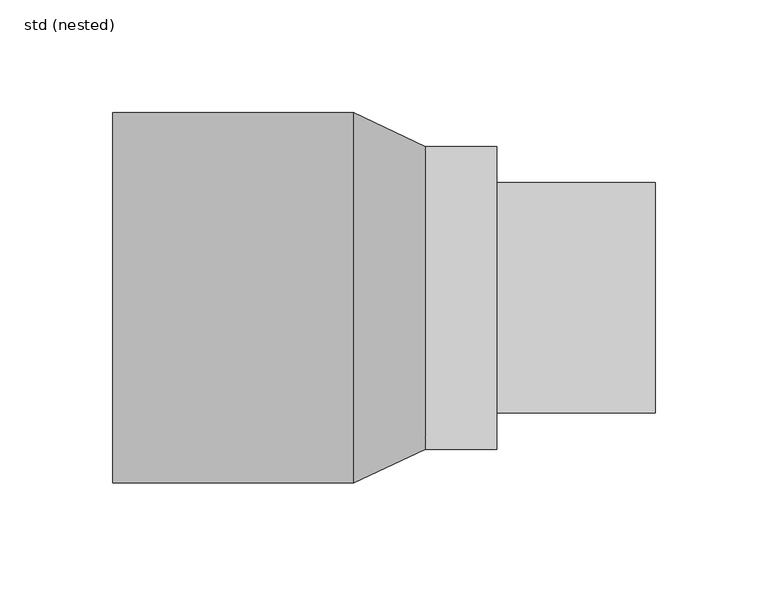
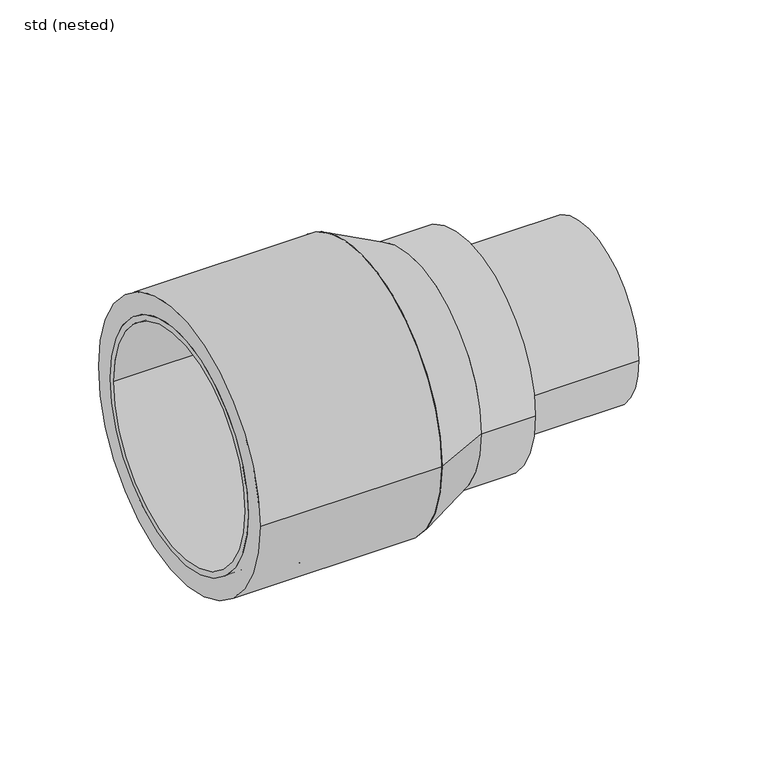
"""IFC4 building model written with IfcOpenShell, lengths in millimetres: pipe fitting geometry, ZZZ_do not use_PIF_ST_WPB_GM-X compound pipe optimiser_ACO : std (nested)."""

import ifcopenshell
import ifcopenshell.guid

model = None  # the IFC model being written
_history = None  # IfcOwnerHistory: only IFC2X3 demands one
_inside = {}  # id of a spatial element -> (the spatial element, [elements in it])
_under = {}  # id of a project, library or spatial element -> (it, [spatial elements below it])
_declared = {}  # id of a project -> (the project, [libraries it declares])
_typed = {}  # id of a type object -> (the type object, [elements of that type])
_made_of = {}  # id of a material, layer set ... -> (it, [elements and type objects made of it])


def new_model(schema):
    """Start an empty IFC model of exactly this schema.

    Asked for "IFC4X3", IfcOpenShell would pick the latest addendum, in which some entities
    have other attributes; the version numbers below select the first issue.
    IFC2X3 requires an IfcOwnerHistory on every rooted entity: one is made here for all.
    """
    global model, _history
    if schema == "IFC4X3":
        model = ifcopenshell.file(schema_version=(4, 3, 0, 0))
    else:
        model = ifcopenshell.file(schema=schema)
    _inside.clear()
    _under.clear()
    _declared.clear()
    _typed.clear()
    _made_of.clear()
    _history = None
    if model.schema == "IFC2X3":
        org = make("IfcOrganization", Name="unknown")
        user = make(
            "IfcPersonAndOrganization",
            ThePerson=make("IfcPerson", FamilyName="unknown"),
            TheOrganization=org,
        )
        app = make(
            "IfcApplication",
            ApplicationDeveloper=org,
            Version="unknown",
            ApplicationFullName="unknown",
            ApplicationIdentifier="unknown",
        )
        _history = make(
            "IfcOwnerHistory",
            OwningUser=user,
            OwningApplication=app,
            ChangeAction="ADDED",
            CreationDate=0,
        )
    return model


def make(cls, **values):
    """One entity of the class cls with the attributes given. An attribute that is None is left unset."""
    return model.create_entity(
        cls, **{name: value for name, value in values.items() if value is not None}
    )


def rooted(cls, **values):
    """An entity with a GlobalId (a new one), such as an element, a storey or a relation."""
    return make(cls, GlobalId=ifcopenshell.guid.new(), OwnerHistory=_history, **values)


def si_unit(unit_type, name, prefix=None):
    """IfcSIUnit, for example si_unit("LENGTHUNIT", "METRE", prefix="MILLI")."""
    return make("IfcSIUnit", UnitType=unit_type, Prefix=prefix, Name=name)


def assignment(units):
    """IfcUnitAssignment: the units of a project."""
    return None if units is None else make("IfcUnitAssignment", Units=units)


def point(xyz):
    """IfcCartesianPoint."""
    return None if xyz is None else make("IfcCartesianPoint", Coordinates=xyz)


def direction(xyz):
    """IfcDirection."""
    return None if xyz is None else make("IfcDirection", DirectionRatios=xyz)


def frame(location, z_axis=None, x_axis=None):
    """IfcAxis2Placement3D, a coordinate frame: its origin and axes. An axis left out is left unset."""
    return make(
        "IfcAxis2Placement3D",
        Location=point(location),
        Axis=direction(z_axis),
        RefDirection=direction(x_axis),
    )


def frame_2d(location, x_axis=None):
    """IfcAxis2Placement2D, a coordinate frame in the plane: its origin and x axis."""
    return make(
        "IfcAxis2Placement2D", Location=point(location), RefDirection=direction(x_axis)
    )


def origin():
    """The frame at (0, 0, 0) with its axes left unset."""
    return frame((0.0, 0.0, 0.0))


def origin_2d():
    """The frame at (0, 0) in the plane with its x axis left unset."""
    return frame_2d((0.0, 0.0))


def place(relative_to, where):
    """IfcLocalPlacement: puts the frame where relative to a parent placement (None: the world)."""
    return make(
        "IfcLocalPlacement", PlacementRelTo=relative_to, RelativePlacement=where
    )


def context(
    kind, dimensions, precision=None, world=None, true_north=None, identifier=None
):
    """IfcGeometricRepresentationContext, for example the 3D "Model" context."""
    return make(
        "IfcGeometricRepresentationContext",
        ContextIdentifier=identifier,
        ContextType=kind,
        CoordinateSpaceDimension=dimensions,
        Precision=precision,
        WorldCoordinateSystem=world,
        TrueNorth=true_north,
    )


def project(units=None, contexts=None):
    """IfcProject with its units and contexts."""
    return rooted(
        "IfcProject",
        Name="project",
        RepresentationContexts=contexts,
        UnitsInContext=assignment(units),
    )


def spatial(cls, under=None, at=None, **own):
    """A site, building, storey or space (cls), placed at a placement, below another one or the project."""
    s = rooted(cls, ObjectPlacement=at, **own)
    if under is not None:
        _under.setdefault(under.id(), (under, []))[1].append(s)
    return s


def polyline(points):
    """IfcPolyline through the points."""
    return make("IfcPolyline", Points=[point(p) for p in points])


def circle_curve(where, radius):
    """IfcCircle in the frame where."""
    return make("IfcCircle", Position=where, Radius=radius)


def trimmed(basis, trim1, trim2, sense, master):
    """IfcTrimmedCurve: the piece of a basis curve between two trims."""
    return make(
        "IfcTrimmedCurve",
        BasisCurve=basis,
        Trim1=trim1,
        Trim2=trim2,
        SenseAgreement=sense,
        MasterRepresentation=master,
    )


def segment(curve, same_sense, transition):
    """IfcCompositeCurveSegment."""
    return make(
        "IfcCompositeCurveSegment",
        Transition=transition,
        SameSense=same_sense,
        ParentCurve=curve,
    )


def composite_curve(segments, self_intersect=None):
    """IfcCompositeCurve: segments joined end to end."""
    return make("IfcCompositeCurve", Segments=segments, SelfIntersect=self_intersect)


def outline(outer, holes=None, kind="AREA"):
    """IfcArbitraryClosedProfileDef: a profile drawn as a closed curve; with holes, ...WithVoids."""
    if holes is None:
        return make("IfcArbitraryClosedProfileDef", ProfileType=kind, OuterCurve=outer)
    return make(
        "IfcArbitraryProfileDefWithVoids",
        ProfileType=kind,
        OuterCurve=outer,
        InnerCurves=holes,
    )


def extrude(swept, where, along, depth):
    """IfcExtrudedAreaSolid: the profile swept, set in the frame where, extruded along a direction by depth."""
    return make(
        "IfcExtrudedAreaSolid",
        SweptArea=swept,
        Position=where,
        ExtrudedDirection=direction(along),
        Depth=depth,
    )


def shape(context_of_items, identifier, shape_type, items):
    """IfcShapeRepresentation: the items that make up one representation, for example the "Body"."""
    return make(
        "IfcShapeRepresentation",
        ContextOfItems=context_of_items,
        RepresentationIdentifier=identifier,
        RepresentationType=shape_type,
        Items=items,
    )


def source(mapping_origin, context_of_items, identifier, shape_type, items):
    """IfcRepresentationMap: a shape defined once, which mapped items show again and again."""
    return make(
        "IfcRepresentationMap",
        MappingOrigin=mapping_origin,
        MappedRepresentation=shape(context_of_items, identifier, shape_type, items),
    )


def transform(
    local_origin,
    x_axis=None,
    y_axis=None,
    z_axis=None,
    scale=None,
    scale2=None,
    scale3=None,
    uniform=True,
):
    """IfcCartesianTransformationOperator3D, or its non-uniform kind. x_axis, y_axis, z_axis: its Axis1, 2, 3."""
    if uniform:
        return make(
            "IfcCartesianTransformationOperator3D",
            Axis1=direction(x_axis),
            Axis2=direction(y_axis),
            LocalOrigin=point(local_origin),
            Scale=scale,
            Axis3=direction(z_axis),
        )
    return make(
        "IfcCartesianTransformationOperator3DnonUniform",
        Axis1=direction(x_axis),
        Axis2=direction(y_axis),
        LocalOrigin=point(local_origin),
        Scale=scale,
        Axis3=direction(z_axis),
        Scale2=scale2,
        Scale3=scale3,
    )


def mapped(mapping_source, mapping_target):
    """IfcMappedItem: shows the shape of a source again, moved by a transform."""
    return make(
        "IfcMappedItem", MappingSource=mapping_source, MappingTarget=mapping_target
    )


def made_of(thing, what):
    """Note that an element or type object is made of a material, layer set ...; save() writes the relation."""
    if what is not None:
        _made_of.setdefault(what.id(), (what, []))[1].append(thing)
    return thing


def element(
    cls,
    number,
    at=None,
    inside=None,
    cuts=None,
    type_object=None,
    material=None,
    context=None,
    identifier="Body",
    shape_type=None,
    held_by="IfcProductDefinitionShape",
    body=None,
    shapes=None,
    **own,
):
    """One element of the class cls, such as IfcWall. Its Tag is "e" and its number.

    at: its placement. inside: the storey or other place that contains it. cuts: it is an
    opening in that element (IfcRelVoidsElement). A single representation is given by context,
    identifier, shape_type and body (its items); several are given by shapes. held_by: the class
    of the entity that holds the representations. save() writes the other relations.
    """
    e = rooted(cls, Tag="e%d" % number, ObjectPlacement=at, **own)
    if body is not None:
        shapes = [shape(context, identifier, shape_type, body)]
    if shapes is not None:
        e.Representation = make(held_by, Representations=shapes)
    if inside is not None:
        _inside.setdefault(inside.id(), (inside, []))[1].append(e)
    if cuts is not None:
        rooted(
            "IfcRelVoidsElement", RelatingBuildingElement=cuts, RelatedOpeningElement=e
        )
    if type_object is not None:
        _typed.setdefault(type_object.id(), (type_object, []))[1].append(e)
    return made_of(e, material)


def aggregate(whole, parts):
    """IfcRelAggregates: a whole, such as a stair, and the parts it consists of."""
    return rooted("IfcRelAggregates", RelatingObject=whole, RelatedObjects=parts)


def save(model, path):
    """Write the relations noted so far, then the file.

    IfcRelAggregates (storeys below a building ...), IfcRelContainedInSpatialStructure (elements
    in a storey), IfcRelDefinesByType, IfcRelAssociatesMaterial and IfcRelDeclares: one each for
    every whole, place, type object, material and project.
    """
    for whole, parts in _under.values():
        aggregate(whole, parts)
    for where, things in _inside.values():
        rooted(
            "IfcRelContainedInSpatialStructure",
            RelatedElements=things,
            RelatingStructure=where,
        )
    for kind, things in _typed.values():
        rooted("IfcRelDefinesByType", RelatedObjects=things, RelatingType=kind)
    for what, things in _made_of.values():
        rooted("IfcRelAssociatesMaterial", RelatedObjects=things, RelatingMaterial=what)
    for by, libraries in _declared.values():
        rooted("IfcRelDeclares", RelatingContext=by, RelatedDefinitions=libraries)
    model.write(path)


def plane_surface(at):
    """IfcPlane: the flat surface through the origin of the frame at, square to its z axis."""
    return make("IfcPlane", Position=at)


def cylinder_surface(at, radius):
    """IfcCylindricalSurface: all points at the distance radius from the z axis of the frame at."""
    return make("IfcCylindricalSurface", Position=at, Radius=radius)


def revolved_surface(curve, axis_point, axis_direction):
    """IfcSurfaceOfRevolution: the curve turned about the line through axis_point along axis_direction."""
    return make(
        "IfcSurfaceOfRevolution",
        SweptCurve=make("IfcArbitraryOpenProfileDef", ProfileType="CURVE", Curve=curve),
        AxisPosition=make("IfcAxis1Placement", Location=point(axis_point), Axis=direction(axis_direction)),
    )


def advanced_brep(points, edges, surfaces, faces):
    """IfcAdvancedBrep: a solid bounded by faces that lie on surfaces and meet in shared edges.

    An edge is (start, end): straight between two places in points (the first is 0);
    or (start, end, curve); or (start, end, curve, False) where it runs against its curve.
    A face is (place in surfaces, loops), or (place, loops, False) where it looks against
    its surface's normal. A loop lists edges by number (the first is 1), with a minus sign
    where the edge is run from its end to its start. The first loop is the outer one.
    """
    corners = [point(p) for p in points]
    vertices = [make("IfcVertexPoint", VertexGeometry=c) for c in corners]
    made = []
    for start, end, *more in edges:
        made.append(
            make(
                "IfcEdgeCurve",
                EdgeStart=vertices[start],
                EdgeEnd=vertices[end],
                EdgeGeometry=more[0] if more else make("IfcPolyline", Points=[corners[start], corners[end]]),
                SameSense=more[1] if len(more) > 1 else True,
            )
        )
    hull = []
    for where, loops, *sense in faces:
        bounds = []
        for j, loop in enumerate(loops):
            ring = [make("IfcOrientedEdge", EdgeElement=made[abs(k) - 1], Orientation=k > 0) for k in loop]
            bounds.append(
                make(
                    "IfcFaceOuterBound" if j == 0 else "IfcFaceBound",
                    Bound=make("IfcEdgeLoop", EdgeList=ring),
                    Orientation=True,
                )
            )
        hull.append(make("IfcAdvancedFace", Bounds=bounds, FaceSurface=surfaces[where], SameSense=sense[0] if sense else True))
    return make("IfcAdvancedBrep", Outer=make("IfcClosedShell", CfsFaces=hull))


def std_nested_eee07551(model_context):
    return source(origin(), model_context, "Body", "SolidModel", [
        advanced_brep(
        [(-66.6, 76.0, 0.0), (-35.0, 76.0, 0.0), (-35.0, -76.0, 0.0), (-66.6, -76.0, 0.0), (-75.0, -70.0, 0.0), (-75.0, 70.0, 0.0), (-75.0, 66.5, 0.0), (-75.0, -66.5, 0.0), (0.0, -70.0, 0.0), (0.0, 70.0, 0.0), (0.0, -66.5, 0.0), (0.0, 66.5, 0.0), (-35.0, -70.0, 0.0), (-35.0, 70.0, 0.0), (-66.6, 70.0, 0.0), (-66.6, -70.0, 0.0)],
        [
            (0, 1),
            (1, 2, circle_curve(frame((-35.0, 0.0, 0.0), z_axis=(-1.0, 0.0, 0.0), x_axis=(0.0, 1.0, 0.0)), 76.0)),
            (2, 3),
            (3, 0, circle_curve(frame((-66.6, 0.0, 0.0), z_axis=(1.0, 0.0, 0.0), x_axis=(0.0, 1.0, 0.0)), 76.0)),
            (2, 1, circle_curve(frame((-35.0, 0.0, 0.0), z_axis=(-1.0, 0.0, 0.0), x_axis=(0.0, 1.0, 0.0)), 76.0)),
            (0, 3, circle_curve(frame((-66.6, 0.0, 0.0), z_axis=(1.0, 0.0, 0.0), x_axis=(0.0, 1.0, 0.0)), 76.0)),
            (4, 5, circle_curve(frame((-75.0, 0.0, 0.0), z_axis=(-1.0, 0.0, 0.0), x_axis=(0.0, 1.0, 0.0)), 70.0)),
            (5, 4, circle_curve(frame((-75.0, 0.0, 0.0), z_axis=(-1.0, 0.0, 0.0), x_axis=(0.0, 1.0, 0.0)), 70.0)),
            (6, 7, circle_curve(frame((-75.0, 0.0, 0.0), z_axis=(1.0, 0.0, 0.0), x_axis=(0.0, 1.0, 0.0)), 66.5)),
            (7, 6, circle_curve(frame((-75.0, 0.0, 0.0), z_axis=(1.0, 0.0, 0.0), x_axis=(0.0, 1.0, 0.0)), 66.5)),
            (8, 9, circle_curve(frame((0.0, 0.0, 0.0), z_axis=(1.0, 0.0, 0.0), x_axis=(0.0, 1.0, 0.0)), 70.0)),
            (9, 8, circle_curve(frame((0.0, 0.0, 0.0), z_axis=(1.0, 0.0, 0.0), x_axis=(0.0, 1.0, 0.0)), 70.0)),
            (10, 11, circle_curve(frame((0.0, 0.0, 0.0), z_axis=(-1.0, 0.0, 0.0), x_axis=(0.0, 1.0, 0.0)), 66.5)),
            (11, 10, circle_curve(frame((0.0, 0.0, 0.0), z_axis=(-1.0, 0.0, 0.0), x_axis=(0.0, 1.0, 0.0)), 66.5)),
            (8, 12),
            (12, 13, circle_curve(frame((-35.0, 0.0, 0.0), z_axis=(1.0, 0.0, 0.0), x_axis=(0.0, 1.0, 0.0)), 70.0)),
            (13, 9),
            (5, 14),
            (14, 15, circle_curve(frame((-66.6, 0.0, 0.0), z_axis=(-1.0, 0.0, 0.0), x_axis=(0.0, 1.0, 0.0)), 70.0)),
            (15, 4),
            (15, 14, circle_curve(frame((-66.6, 0.0, 0.0), z_axis=(-1.0, 0.0, 0.0), x_axis=(0.0, 1.0, 0.0)), 70.0)),
            (13, 12, circle_curve(frame((-35.0, 0.0, 0.0), z_axis=(1.0, 0.0, 0.0), x_axis=(0.0, 1.0, 0.0)), 70.0)),
            (7, 10),
            (11, 6),
        ],
        [
            cylinder_surface(frame((-35.0, 0.0, 0.0), z_axis=(-1.0, 0.0, 0.0), x_axis=(0.0, 1.0, 0.0)), 76.0),
            plane_surface(frame((-75.0, 70.0, 0.0), z_axis=(-1.0, 0.0, 0.0), x_axis=(0.0, 0.0, 1.0))),
            plane_surface(frame((0.0, 70.0, 0.0), z_axis=(1.0, 0.0, 0.0), x_axis=(0.0, 0.0, -1.0))),
            cylinder_surface(frame((0.0, 0.0, 0.0), z_axis=(-1.0, 0.0, 0.0), x_axis=(0.0, 1.0, 0.0)), 70.0),
            revolved_surface(polyline([(-75.0, 66.5, 0.0), (0.0, 66.5, 0.0)]), (0.0, 0.0, 0.0), (-1.0, 0.0, 0.0)),
            plane_surface(frame((-66.6, 76.0, 0.0), z_axis=(-1.0, 0.0, 0.0), x_axis=(0.0, 0.0, 1.0))),
            plane_surface(frame((-35.0, 76.0, 0.0), z_axis=(1.0, 0.0, 0.0), x_axis=(0.0, 0.0, -1.0))),
        ],
        [
            (0, [[1, 2, 3, 4]]),
            (0, [[-3, 5, -1, 6]]),
            (1, [[7, 8], [9, 10]]),
            (2, [[11, 12], [13, 14]]),
            (3, [[15, 16, 17, -11]]),
            (3, [[18, 19, 20, -8]]),
            (3, [[-20, 21, -18, -7]]),
            (3, [[-17, 22, -15, -12]]),
            (4, [[-10, 23, -14, 24]]),
            (4, [[-13, -23, -9, -24]]),
            (5, [[-6, -4], [-21, -19]]),
            (6, [[-2, -5], [-22, -16]]),
        ],
    ),
        advanced_brep(
        [(63.3333333, 67.0, 0.0), (63.3333333, -67.0, 0.0), (31.6666667, 82.0, 0.0), (31.6666667, -82.0, 0.0)],
        [
            (0, 1, circle_curve(frame((63.3333333, 0.0, 0.0), z_axis=(1.0, 0.0, 0.0), x_axis=(0.0, -1.0, 0.0)), 67.0)),
            (1, 0, circle_curve(frame((63.3333333, 0.0, 0.0), z_axis=(1.0, 0.0, 0.0), x_axis=(0.0, 1.0, 0.0)), 67.0)),
            (2, 3, circle_curve(frame((31.6666667, 0.0, 0.0), z_axis=(-1.0, 0.0, 0.0), x_axis=(0.0, 1.0, 0.0)), 82.0)),
            (3, 2, circle_curve(frame((31.6666667, 0.0, 0.0), z_axis=(-1.0, 0.0, 0.0), x_axis=(0.0, -1.0, 0.0)), 82.0)),
            (2, 0),
            (1, 3),
        ],
        [
            plane_surface(frame((63.3333333, 0.0, 0.0), z_axis=(1.0, 0.0, 0.0), x_axis=(0.0, 0.0, -1.0))),
            plane_surface(frame((31.6666667, 0.0, 0.0), z_axis=(-1.0, 0.0, 0.0), x_axis=(0.0, 0.0, -1.0))),
            revolved_surface(polyline([(63.33333329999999, 67.00000003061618, 0.0), (31.666666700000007, 82.0, 0.0)]), (204.7777778, 0.0, 0.0), (-1.0, 0.0, 0.0)),
            revolved_surface(polyline([(63.33333329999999, -67.00000003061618, 0.0), (31.666666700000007, -82.0, 0.0)]), (204.7777778, 0.0, 0.0), (-1.0, 0.0, 0.0)),
        ],
        [
            (0, [[1, 2]]),
            (1, [[3, 4]]),
            (2, [[5, -2, 6, -3]]),
            (3, [[-6, -1, -5, -4]]),
        ],
    ),
        advanced_brep(
        [(-75.0, 82.0, 0.0), (-75.0, -82.0, 0.0), (-75.0, -70.0, 0.0), (-75.0, 70.0, 0.0), (31.6666667, 82.0, 0.0), (31.6666667, -82.0, 0.0), (0.0, 70.0, 0.0), (0.0, -70.0, 0.0)],
        [
            (0, 1, circle_curve(frame((-75.0, 0.0, 0.0), z_axis=(-1.0, 0.0, 0.0), x_axis=(0.0, -1.0, 0.0)), 82.0)),
            (1, 0, circle_curve(frame((-75.0, 0.0, 0.0), z_axis=(-1.0, 0.0, 0.0), x_axis=(0.0, -1.0, 0.0)), 82.0)),
            (2, 3, circle_curve(frame((-75.0, 0.0, 0.0), z_axis=(1.0, 0.0, 0.0), x_axis=(0.0, -1.0, 0.0)), 70.0)),
            (3, 2, circle_curve(frame((-75.0, 0.0, 0.0), z_axis=(1.0, 0.0, 0.0), x_axis=(0.0, -1.0, 0.0)), 70.0)),
            (4, 5, circle_curve(frame((31.6666667, 0.0, 0.0), z_axis=(1.0, 0.0, 0.0), x_axis=(0.0, -1.0, 0.0)), 82.0)),
            (5, 4, circle_curve(frame((31.6666667, 0.0, 0.0), z_axis=(1.0, 0.0, 0.0), x_axis=(0.0, -1.0, 0.0)), 82.0)),
            (1, 5),
            (4, 0),
            (6, 7, circle_curve(frame((0.0, 0.0, 0.0), z_axis=(-1.0, 0.0, 0.0), x_axis=(0.0, -1.0, 0.0)), 70.0)),
            (7, 6, circle_curve(frame((0.0, 0.0, 0.0), z_axis=(-1.0, 0.0, 0.0), x_axis=(0.0, -1.0, 0.0)), 70.0)),
            (7, 2),
            (3, 6),
        ],
        [
            plane_surface(frame((-75.0, -82.0, 0.0), z_axis=(-1.0, 0.0, 0.0), x_axis=(0.0, 0.0, -1.0))),
            plane_surface(frame((31.6666667, -82.0, 0.0), z_axis=(1.0, 0.0, 0.0), x_axis=(0.0, 0.0, 1.0))),
            cylinder_surface(frame((31.6666667, 0.0, 0.0), z_axis=(-1.0, 0.0, 0.0), x_axis=(0.0, -1.0, 0.0)), 82.0),
            plane_surface(frame((0.0, -70.0, 0.0), z_axis=(-1.0, 0.0, 0.0), x_axis=(0.0, 0.0, 1.0))),
            revolved_surface(polyline([(-75.0, -70.0, 0.0), (0.0, -70.0, 0.0)]), (0.0, 0.0, 0.0), (-1.0, 0.0, 0.0)),
        ],
        [
            (0, [[1, 2], [3, 4]]),
            (1, [[5, 6]]),
            (2, [[7, -5, 8, -2]]),
            (2, [[-8, -6, -7, -1]]),
            (3, [[9, 10]]),
            (4, [[11, -4, 12, -10]]),
            (4, [[-12, -3, -11, -9]]),
        ],
    ),
        extrude(outline(composite_curve([segment(trimmed(circle_curve(origin_2d(), 67.0), [point((-67.0, 0.0))], [point((67.0, 0.0))], False, "CARTESIAN"), True, "CONTINUOUS"), segment(trimmed(circle_curve(origin_2d(), 67.0), [point((67.0, 0.0))], [point((-67.0, 0.0))], False, "CARTESIAN"), True, "CONTINUOUS")], self_intersect=False)), frame((63.3333333, 0.0, 0.0), z_axis=(1.0, 0.0, 0.0), x_axis=(0.0, 1.0, 0.0)), (0.0, 0.0, 1.0), 31.6666667),
        extrude(outline(composite_curve([segment(trimmed(circle_curve(origin_2d(), 51.0), [point((-51.0, 0.0))], [point((51.0, 0.0))], False, "CARTESIAN"), True, "CONTINUOUS"), segment(trimmed(circle_curve(origin_2d(), 51.0), [point((51.0, 0.0))], [point((-51.0, 0.0))], False, "CARTESIAN"), True, "CONTINUOUS")], self_intersect=False)), frame((95.0, 0.0, 0.0), z_axis=(1.0, 0.0, 0.0), x_axis=(0.0, 1.0, 0.0)), (0.0, 0.0, 1.0), 70.0),
    ])


if __name__ == "__main__":
    model = new_model("IFC4")
    model_context = context("Model", 3, world=origin())
    ifc_project = project(units=[si_unit("LENGTHUNIT", "METRE", prefix="MILLI")], contexts=[model_context])
    site = spatial("IfcSite", under=ifc_project)
    building = spatial("IfcBuilding", under=site)
    placement = place(None, origin())
    std_nested_shape = std_nested_eee07551(model_context)
    element("IfcPipeFitting", 1, ObjectType="ZZZ_do not use_PIF_ST_WPB_GM-X compound pipe optimiser_ACO : std (nested)", at=placement, inside=building, context=model_context, shape_type="MappedRepresentation", body=[
        mapped(std_nested_shape, transform((0.0, 0.0, 0.0), x_axis=(1.0, 0.0, 0.0), y_axis=(0.0, 1.0, 0.0), z_axis=(0.0, 0.0, 1.0))),
    ])
    save(model, "model.ifc")
